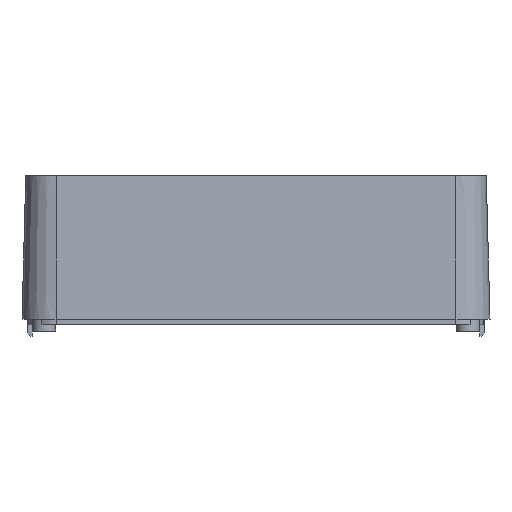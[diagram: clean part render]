
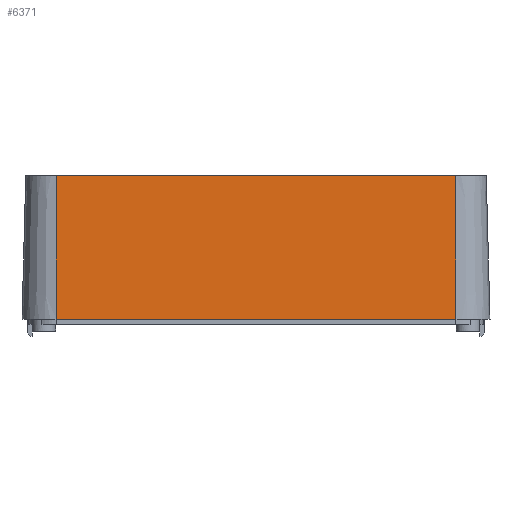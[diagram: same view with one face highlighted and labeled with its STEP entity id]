
A CAD part, front view. The second image highlights one B-rep face of the part: STEP entity #6371.
In plain terms, the highlighted planar face has unit normal (0, -1, 0.026).
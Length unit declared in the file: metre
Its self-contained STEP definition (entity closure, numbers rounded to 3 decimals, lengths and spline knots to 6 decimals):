
#2050=ORIENTED_EDGE('',*,*,#3037,.T.);
#2051=ORIENTED_EDGE('',*,*,#3026,.F.);
#2052=ORIENTED_EDGE('',*,*,#3035,.T.);
#2053=ORIENTED_EDGE('',*,*,#3038,.T.);
#3026=EDGE_CURVE('',#3644,#3645,#4283,.T.);
#3035=EDGE_CURVE('',#3644,#3652,#4289,.T.);
#3037=EDGE_CURVE('',#3653,#3645,#4290,.T.);
#3038=EDGE_CURVE('',#3652,#3653,#4291,.T.);
#3644=VERTEX_POINT('',#10607);
#3645=VERTEX_POINT('',#10609);
#3652=VERTEX_POINT('',#10627);
#3653=VERTEX_POINT('',#10631);
#4283=LINE('',#10608,#4923);
#4289=LINE('',#10626,#4929);
#4290=LINE('',#10630,#4930);
#4291=LINE('',#10632,#4931);
#4923=VECTOR('',#8738,1.);
#4929=VECTOR('',#8754,1.);
#4930=VECTOR('',#8759,1.);
#4931=VECTOR('',#8760,1.);
#5361=EDGE_LOOP('',(#2050,#2051,#2052,#2053));
#5793=FACE_BOUND('',#5361,.T.);
#6036=PLANE('',#6965);
#6371=ADVANCED_FACE('',(#5793),#6036,.T.);
#6965=AXIS2_PLACEMENT_3D('',#10629,#8757,#8758);
#8738=DIRECTION('',(1.,0.,0.));
#8754=DIRECTION('',(0.,-0.026,-1.));
#8757=DIRECTION('',(0.,-1.,0.026));
#8758=DIRECTION('',(-1.,0.,0.));
#8759=DIRECTION('',(0.,0.026,1.));
#8760=DIRECTION('',(1.,0.,0.));
#10607=CARTESIAN_POINT('',(-0.0585,-0.1114,0.095));
#10608=CARTESIAN_POINT('',(-0.0585,-0.1114,0.095));
#10609=CARTESIAN_POINT('',(0.0585,-0.1114,0.095));
#10626=CARTESIAN_POINT('',(-0.0585,-0.1114,0.095));
#10627=CARTESIAN_POINT('',(-0.0585,-0.1125,0.053));
#10629=CARTESIAN_POINT('',(-0.062697,-0.1125,0.053));
#10630=CARTESIAN_POINT('',(0.0585,-0.1125,0.053));
#10631=CARTESIAN_POINT('',(0.0585,-0.1125,0.053));
#10632=CARTESIAN_POINT('',(-0.0585,-0.1125,0.053));
